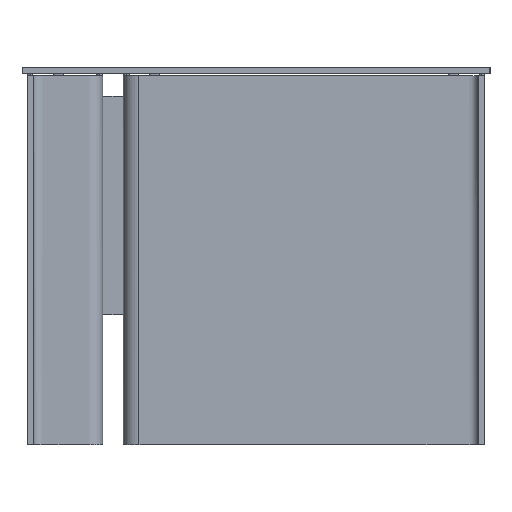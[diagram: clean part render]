
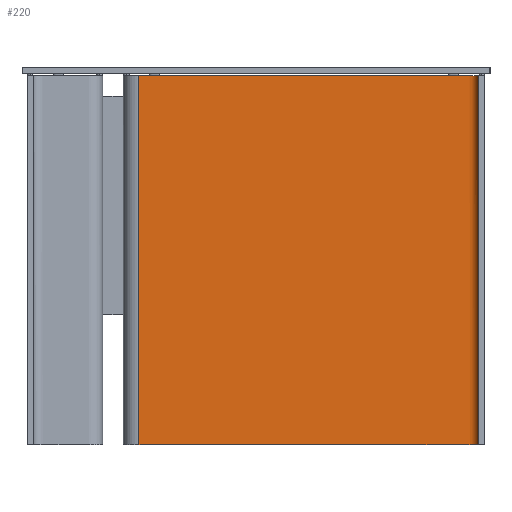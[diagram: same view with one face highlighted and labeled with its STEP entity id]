
A CAD part, left-side view. The second image highlights one B-rep face of the part: STEP entity #220.
In plain terms, the highlighted free-form (B-spline) face has degree [2, 1] with [7, 2] control points.
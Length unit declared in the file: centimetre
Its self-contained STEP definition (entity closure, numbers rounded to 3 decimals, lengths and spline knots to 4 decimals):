
#37=(
BOUNDED_SURFACE()
B_SPLINE_SURFACE(2,1,((#2207,#2208),(#2209,#2210),(#2211,#2212),(#2213,#2214),
(#2215,#2216),(#2217,#2218),(#2219,#2220)),.UNSPECIFIED.,.F.,.F.,.F.)
B_SPLINE_SURFACE_WITH_KNOTS((3,2,2,3),(2,2),(-66.5,-3.,-0.1726,
5.8274),(0.,71.),.UNSPECIFIED.)
GEOMETRIC_REPRESENTATION_ITEM()
RATIONAL_B_SPLINE_SURFACE(((1.,1.),(1.,1.),(1.,1.),(0.707,0.707),
(1.,1.),(1.,1.),(1.,1.)))
REPRESENTATION_ITEM($)
SURFACE()
);
#91=(
BOUNDED_CURVE()
B_SPLINE_CURVE(2,(#2143,#2144,#2145,#2146,#2147,#2148,#2149),.UNSPECIFIED.,
.F.,.F.)
B_SPLINE_CURVE_WITH_KNOTS((3,2,2,3),(-66.5,-3.,-0.1726,5.8274),
.UNSPECIFIED.)
CURVE()
GEOMETRIC_REPRESENTATION_ITEM()
RATIONAL_B_SPLINE_CURVE((1.,1.,1.,0.707,1.,1.,1.))
REPRESENTATION_ITEM($)
);
#95=(
BOUNDED_CURVE()
B_SPLINE_CURVE(2,(#2177,#2178,#2179,#2180,#2181,#2182,#2183),.UNSPECIFIED.,
.F.,.F.)
B_SPLINE_CURVE_WITH_KNOTS((3,2,2,3),(-5.8274,0.1726,
3.,66.5),.UNSPECIFIED.)
CURVE()
GEOMETRIC_REPRESENTATION_ITEM()
RATIONAL_B_SPLINE_CURVE((1.,1.,1.,0.707,1.,1.,1.))
REPRESENTATION_ITEM($)
);
#220=ADVANCED_FACE($,(#312),#37,.T.);
#312=FACE_OUTER_BOUND($,#404,.T.);
#404=EDGE_LOOP($,(#622,#623,#624,#625));
#622=ORIENTED_EDGE($,*,*,#865,.T.);
#623=ORIENTED_EDGE($,*,*,#861,.T.);
#624=ORIENTED_EDGE($,*,*,#855,.F.);
#625=ORIENTED_EDGE($,*,*,#854,.T.);
#854=EDGE_CURVE($,#996,#1001,#91,.T.);
#855=EDGE_CURVE($,#996,#997,#1166,.T.);
#861=EDGE_CURVE($,#1002,#997,#95,.T.);
#865=EDGE_CURVE($,#1001,#1002,#1171,.T.);
#996=VERTEX_POINT($,#2255);
#997=VERTEX_POINT($,#2256);
#1001=VERTEX_POINT($,#2260);
#1002=VERTEX_POINT($,#2261);
#1166=B_SPLINE_CURVE_WITH_KNOTS($,1,(#2150,#2151),.UNSPECIFIED.,.F.,.F.,
(2,2),(0.,71.),.UNSPECIFIED.);
#1171=B_SPLINE_CURVE_WITH_KNOTS($,1,(#2199,#2200),.UNSPECIFIED.,.F.,.F.,
(2,2),(0.,71.),.UNSPECIFIED.);
#2143=CARTESIAN_POINT($,(8.8,67.5,0.));
#2144=CARTESIAN_POINT($,(8.8,35.75,0.));
#2145=CARTESIAN_POINT($,(8.8,4.,0.));
#2146=CARTESIAN_POINT($,(8.8,2.2,0.));
#2147=CARTESIAN_POINT($,(7.,2.2,0.));
#2148=CARTESIAN_POINT($,(4.,2.2,0.));
#2149=CARTESIAN_POINT($,(1.,2.2,0.));
#2150=CARTESIAN_POINT($,(8.8,67.5,0.));
#2151=CARTESIAN_POINT($,(8.8,67.5,71.));
#2177=CARTESIAN_POINT($,(1.,2.2,71.));
#2178=CARTESIAN_POINT($,(4.,2.2,71.));
#2179=CARTESIAN_POINT($,(7.,2.2,71.));
#2180=CARTESIAN_POINT($,(8.8,2.2,71.));
#2181=CARTESIAN_POINT($,(8.8,4.,71.));
#2182=CARTESIAN_POINT($,(8.8,35.75,71.));
#2183=CARTESIAN_POINT($,(8.8,67.5,71.));
#2199=CARTESIAN_POINT($,(1.,2.2,0.));
#2200=CARTESIAN_POINT($,(1.,2.2,71.));
#2207=CARTESIAN_POINT($,(8.8,67.5,0.));
#2208=CARTESIAN_POINT($,(8.8,67.5,71.));
#2209=CARTESIAN_POINT($,(8.8,35.75,0.));
#2210=CARTESIAN_POINT($,(8.8,35.75,71.));
#2211=CARTESIAN_POINT($,(8.8,4.,0.));
#2212=CARTESIAN_POINT($,(8.8,4.,71.));
#2213=CARTESIAN_POINT($,(8.8,2.2,0.));
#2214=CARTESIAN_POINT($,(8.8,2.2,71.));
#2215=CARTESIAN_POINT($,(7.,2.2,0.));
#2216=CARTESIAN_POINT($,(7.,2.2,71.));
#2217=CARTESIAN_POINT($,(4.,2.2,0.));
#2218=CARTESIAN_POINT($,(4.,2.2,71.));
#2219=CARTESIAN_POINT($,(1.,2.2,0.));
#2220=CARTESIAN_POINT($,(1.,2.2,71.));
#2255=CARTESIAN_POINT($,(8.8,67.5,0.));
#2256=CARTESIAN_POINT($,(8.8,67.5,71.));
#2260=CARTESIAN_POINT($,(1.,2.2,0.));
#2261=CARTESIAN_POINT($,(1.,2.2,71.));
